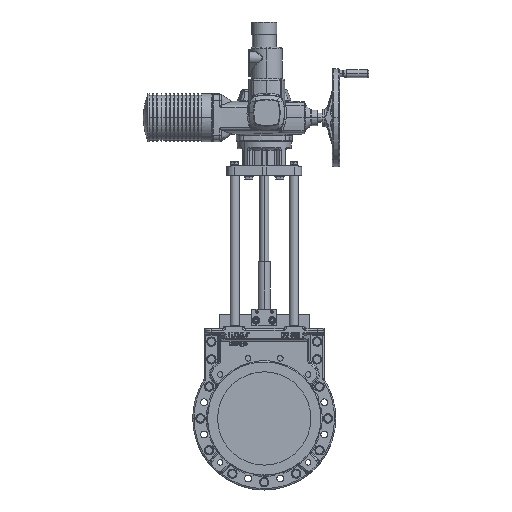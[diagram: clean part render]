
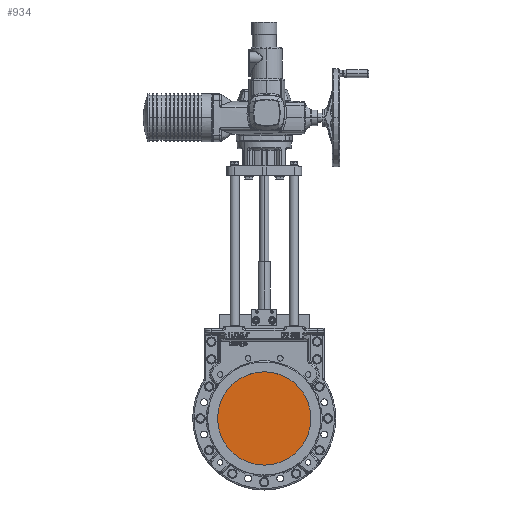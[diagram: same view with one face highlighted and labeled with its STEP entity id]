
A CAD part, top view. The second image highlights one B-rep face of the part: STEP entity #934.
In plain terms, the highlighted planar face has unit normal (0, 0, 1).
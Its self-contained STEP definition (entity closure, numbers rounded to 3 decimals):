
#934 = ADVANCED_FACE ( 'NONE', ( #20390 ), #82044, .T. ) ;
#1817 = AXIS2_PLACEMENT_3D ( 'NONE', #134865, #60861, #147328 ) ;
#8043 = DIRECTION ( 'NONE',  ( 0., 0., 1. ) ) ;
#10892 = ORIENTED_EDGE ( 'NONE', *, *, #147342, .T. ) ;
#20390 = FACE_OUTER_BOUND ( 'NONE', #87453, .T. ) ;
#22445 = VERTEX_POINT ( 'NONE', #86206 ) ;
#34111 = VERTEX_POINT ( 'NONE', #61692 ) ;
#37232 = AXIS2_PLACEMENT_3D ( 'NONE', #64169, #150600, #76616 ) ;
#44015 = CIRCLE ( 'NONE', #1817, 150. ) ;
#48713 = CIRCLE ( 'NONE', #37232, 150. ) ;
#58484 = EDGE_CURVE ( 'NONE', #22445, #34111, #48713, .T. ) ;
#60861 = DIRECTION ( 'NONE',  ( 0., 0., 1. ) ) ;
#61692 = CARTESIAN_POINT ( 'NONE',  ( 150., 0., -0.25 ) ) ;
#64169 = CARTESIAN_POINT ( 'NONE',  ( 0., 0., -0.25 ) ) ;
#76616 = DIRECTION ( 'NONE',  ( 1., 0., 0. ) ) ;
#82044 = PLANE ( 'NONE',  #125235 ) ;
#86206 = CARTESIAN_POINT ( 'NONE',  ( -150., 0., -0.25 ) ) ;
#86953 = ORIENTED_EDGE ( 'NONE', *, *, #58484, .T. ) ;
#87453 = EDGE_LOOP ( 'NONE', ( #86953, #10892 ) ) ;
#93981 = CARTESIAN_POINT ( 'NONE',  ( 0., 0., -0.25 ) ) ;
#94528 = DIRECTION ( 'NONE',  ( 1., 0., 0. ) ) ;
#125235 = AXIS2_PLACEMENT_3D ( 'NONE', #93981, #8043, #94528 ) ;
#134865 = CARTESIAN_POINT ( 'NONE',  ( 0., 0., -0.25 ) ) ;
#147328 = DIRECTION ( 'NONE',  ( 1., 0., 0. ) ) ;
#147342 = EDGE_CURVE ( 'NONE', #34111, #22445, #44015, .T. ) ;
#150600 = DIRECTION ( 'NONE',  ( 0., 0., 1. ) ) ;
